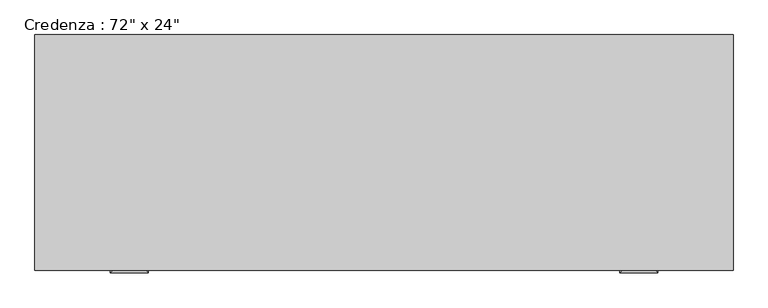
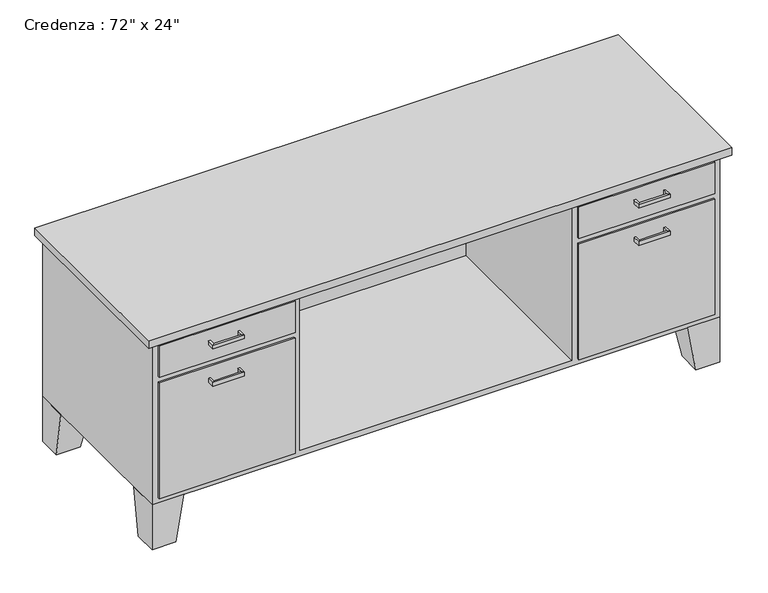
"""IFC4 building model written with IfcOpenShell, lengths in millimetres: furniture geometry."""

from ifc_helpers import new_model, si_unit, frame, origin, place, context, project, spatial, polyline, outline, extrude, faceted_brep, source, transform, mapped, element, save


def furniture_1bd23331(model_context):
    return source(origin(), model_context, "Body", "SolidModel", [
        faceted_brep([(872.3442623, 309.3803279, 152.4), (872.3442623, 207.7803279, 152.4), (973.9442623, 207.7803279, 152.4), (973.9442623, 309.3803279, 152.4), (897.7442623, 309.3803279, 0.0), (973.9442623, 309.3803279, 0.0), (973.9442623, 233.1803279, 0.0), (897.7442623, 233.1803279, 0.0)], [[[0, 1, 2, 3]], [[4, 5, 6, 7]], [[4, 7, 1, 0]], [[7, 6, 2, 1]], [[6, 5, 3, 2]], [[5, 4, 0, 3]]]),
        extrude(outline(polyline([(954.8942623, -306.5696721), (516.7442623, -306.5696721), (516.7442623, -300.2196721), (954.8942623, -300.2196721), (954.8942623, -306.5696721)])), frame((0.0, 0.0, 584.2), z_axis=(0.0, 0.0, 1.0), x_axis=(1.0, 0.0, 0.0)), (0.0, 0.0, 1.0), 107.95),
        extrude(outline(polyline([(954.8942623, -306.5696721), (516.7442623, -306.5696721), (516.7442623, -300.2196721), (954.8942623, -300.2196721), (954.8942623, -306.5696721)])), frame((0.0, 0.0, 171.45), z_axis=(0.0, 0.0, 1.0), x_axis=(1.0, 0.0, 0.0)), (0.0, 0.0, 1.0), 393.7),
        extrude(outline(polyline([(-397.6557377, -306.5696721), (-835.8057377, -306.5696721), (-835.8057377, -300.2196721), (-397.6557377, -300.2196721), (-397.6557377, -306.5696721)])), frame((0.0, 0.0, 584.2), z_axis=(0.0, 0.0, 1.0), x_axis=(1.0, 0.0, 0.0)), (0.0, 0.0, 1.0), 107.95),
        extrude(outline(polyline([(-397.6557377, -306.5696721), (-835.8057377, -306.5696721), (-835.8057377, -300.2196721), (-397.6557377, -300.2196721), (-397.6557377, -306.5696721)])), frame((0.0, 0.0, 171.45), z_axis=(0.0, 0.0, 1.0), x_axis=(1.0, 0.0, 0.0)), (0.0, 0.0, 1.0), 393.7),
        faceted_brep([(-753.2557377, -300.2196721, 152.4), (-753.2557377, -198.6196721, 152.4), (-854.8557377, -198.6196721, 152.4), (-854.8557377, -300.2196721, 152.4), (-778.6557377, -300.2196721, 0.0), (-854.8557377, -300.2196721, 0.0), (-854.8557377, -224.0196721, 0.0), (-778.6557377, -224.0196721, 0.0)], [[[0, 1, 2, 3]], [[4, 5, 6, 7]], [[4, 7, 1, 0]], [[7, 6, 2, 1]], [[6, 5, 3, 2]], [[5, 4, 0, 3]]]),
        faceted_brep([(-753.2557377, 309.3803279, 152.4), (-854.8557377, 309.3803279, 152.4), (-854.8557377, 207.7803279, 152.4), (-753.2557377, 207.7803279, 152.4), (-778.6557377, 309.3803279, 0.0), (-778.6557377, 233.1803279, 0.0), (-854.8557377, 233.1803279, 0.0), (-854.8557377, 309.3803279, 0.0)], [[[0, 1, 2, 3]], [[4, 5, 6, 7]], [[4, 7, 1, 0]], [[7, 6, 2, 1]], [[6, 5, 3, 2]], [[5, 4, 0, 3]]]),
        faceted_brep([(872.3442623, -300.2196721, 152.4), (973.9442623, -300.2196721, 152.4), (973.9442623, -198.6196721, 152.4), (872.3442623, -198.6196721, 152.4), (897.7442623, -300.2196721, 0.0), (897.7442623, -224.0196721, 0.0), (973.9442623, -224.0196721, 0.0), (973.9442623, -300.2196721, 0.0)], [[[0, 1, 2, 3]], [[4, 5, 6, 7]], [[4, 7, 1, 0]], [[7, 6, 2, 1]], [[6, 5, 3, 2]], [[5, 4, 0, 3]]]),
        faceted_brep([(973.9442623, 309.3803279, 711.2), (-854.8557377, 309.3803279, 711.2), (-854.8557377, -300.2196721, 711.2), (973.9442623, -300.2196721, 711.2), (973.9442623, 309.3803279, 152.4), (973.9442623, -300.2196721, 152.4), (-854.8557377, -300.2196721, 152.4), (-854.8557377, 309.3803279, 152.4), (-378.6057377, -300.2196721, 692.15), (497.6942623, -300.2196721, 692.15), (497.6942623, -300.2196721, 171.45), (-378.6057377, -300.2196721, 171.45), (497.6942623, 290.3303279, 692.15), (-378.6057377, 290.3303279, 692.15), (-378.6057377, 290.3303279, 171.45), (497.6942623, 290.3303279, 171.45)], [[[0, 1, 2, 3]], [[4, 5, 6, 7]], [[1, 0, 4, 7]], [[2, 1, 7, 6]], [[3, 2, 6, 5], [8, 9, 10, 11]], [[0, 3, 5, 4]], [[12, 13, 14, 15]], [[13, 12, 9, 8]], [[14, 13, 8, 11]], [[15, 14, 11, 10]], [[12, 15, 10, 9]]]),
        extrude(outline(polyline([(999.3442623, 309.3803279), (999.3442623, -325.6196721), (-880.2557377, -325.6196721), (-880.2557377, 309.3803279), (999.3442623, 309.3803279)])), frame((0.0, 0.0, 711.2), z_axis=(0.0, 0.0, 1.0), x_axis=(1.0, 0.0, 0.0)), (0.0, 0.0, 1.0), 25.4),
        faceted_brep([(-670.7057377, -306.5696721, 527.05), (-670.7057377, -306.5696721, 514.35), (-677.0557377, -306.5696721, 514.35), (-677.0557377, -306.5696721, 527.05), (-670.7057377, -325.6196721, 527.05), (-670.7057377, -325.6196721, 514.35), (-677.0557377, -331.9696721, 514.35), (-677.0557377, -331.9696721, 527.05), (-581.8057377, -325.6196721, 527.05), (-581.8057377, -325.6196721, 514.35), (-575.4557377, -331.9696721, 514.35), (-575.4557377, -331.9696721, 527.05), (-581.8057377, -306.5696721, 527.05), (-575.4557377, -306.5696721, 527.05), (-575.4557377, -306.5696721, 514.35), (-581.8057377, -306.5696721, 514.35)], [[[0, 1, 2, 3]], [[1, 0, 4, 5]], [[2, 1, 5, 6]], [[3, 2, 6, 7]], [[0, 3, 7, 4]], [[5, 4, 8, 9]], [[6, 5, 9, 10]], [[7, 6, 10, 11]], [[4, 7, 11, 8]], [[12, 13, 14, 15]], [[9, 8, 12, 15]], [[10, 9, 15, 14]], [[11, 10, 14, 13]], [[8, 11, 13, 12]]]),
        faceted_brep([(-670.7057377, -306.5696721, 654.05), (-670.7057377, -306.5696721, 641.35), (-677.0557377, -306.5696721, 641.35), (-677.0557377, -306.5696721, 654.05), (-670.7057377, -325.6196721, 654.05), (-670.7057377, -325.6196721, 641.35), (-677.0557377, -331.9696721, 641.35), (-677.0557377, -331.9696721, 654.05), (-581.8057377, -325.6196721, 654.05), (-581.8057377, -325.6196721, 641.35), (-575.4557377, -331.9696721, 641.35), (-575.4557377, -331.9696721, 654.05), (-581.8057377, -306.5696721, 654.05), (-575.4557377, -306.5696721, 654.05), (-575.4557377, -306.5696721, 641.35), (-581.8057377, -306.5696721, 641.35)], [[[0, 1, 2, 3]], [[1, 0, 4, 5]], [[2, 1, 5, 6]], [[3, 2, 6, 7]], [[0, 3, 7, 4]], [[5, 4, 8, 9]], [[6, 5, 9, 10]], [[7, 6, 10, 11]], [[4, 7, 11, 8]], [[12, 13, 14, 15]], [[9, 8, 12, 15]], [[10, 9, 15, 14]], [[11, 10, 14, 13]], [[8, 11, 13, 12]]]),
        faceted_brep([(700.8942623, -306.5696721, 654.1373112), (700.8942623, -306.5696721, 641.4373112), (694.5442623, -306.5696721, 641.4373112), (694.5442623, -306.5696721, 654.1373112), (700.8942623, -325.6196721, 654.1373112), (700.8942623, -325.6196721, 641.4373112), (694.5442623, -331.9696721, 641.4373112), (694.5442623, -331.9696721, 654.1373112), (789.7942623, -325.6196721, 654.1373112), (789.7942623, -325.6196721, 641.4373112), (796.1442623, -331.9696721, 641.4373112), (796.1442623, -331.9696721, 654.1373112), (789.7942623, -306.5696721, 654.1373112), (796.1442623, -306.5696721, 654.1373112), (796.1442623, -306.5696721, 641.4373112), (789.7942623, -306.5696721, 641.4373112)], [[[0, 1, 2, 3]], [[1, 0, 4, 5]], [[2, 1, 5, 6]], [[3, 2, 6, 7]], [[0, 3, 7, 4]], [[5, 4, 8, 9]], [[6, 5, 9, 10]], [[7, 6, 10, 11]], [[4, 7, 11, 8]], [[12, 13, 14, 15]], [[9, 8, 12, 15]], [[10, 9, 15, 14]], [[11, 10, 14, 13]], [[8, 11, 13, 12]]]),
        faceted_brep([(700.8942623, -306.5696721, 527.05), (700.8942623, -306.5696721, 514.35), (694.5442623, -306.5696721, 514.35), (694.5442623, -306.5696721, 527.05), (700.8942623, -325.6196721, 527.05), (700.8942623, -325.6196721, 514.35), (694.5442623, -331.9696721, 514.35), (694.5442623, -331.9696721, 527.05), (789.7942623, -325.6196721, 527.05), (789.7942623, -325.6196721, 514.35), (796.1442623, -331.9696721, 514.35), (796.1442623, -331.9696721, 527.05), (789.7942623, -306.5696721, 527.05), (796.1442623, -306.5696721, 527.05), (796.1442623, -306.5696721, 514.35), (789.7942623, -306.5696721, 514.35)], [[[0, 1, 2, 3]], [[1, 0, 4, 5]], [[2, 1, 5, 6]], [[3, 2, 6, 7]], [[0, 3, 7, 4]], [[5, 4, 8, 9]], [[6, 5, 9, 10]], [[7, 6, 10, 11]], [[4, 7, 11, 8]], [[12, 13, 14, 15]], [[9, 8, 12, 15]], [[10, 9, 15, 14]], [[11, 10, 14, 13]], [[8, 11, 13, 12]]]),
    ])


if __name__ == "__main__":
    model = new_model("IFC4")
    model_context = context("Model", 3, world=origin())
    ifc_project = project(units=[si_unit("LENGTHUNIT", "METRE", prefix="MILLI")], contexts=[model_context])
    site = spatial("IfcSite", under=ifc_project)
    building = spatial("IfcBuilding", under=site)
    placement = place(None, origin())
    furniture_shape = furniture_1bd23331(model_context)
    element("IfcFurniture", 1, ObjectType="Credenza : 72\" x 24\"", at=placement, inside=building, context=model_context, shape_type="MappedRepresentation", body=[
        mapped(furniture_shape, transform((0.0, 0.0, 0.0), x_axis=(1.0, 0.0, 0.0), y_axis=(0.0, 1.0, 0.0), z_axis=(0.0, 0.0, 1.0))),
    ])
    save(model, "model.ifc")
